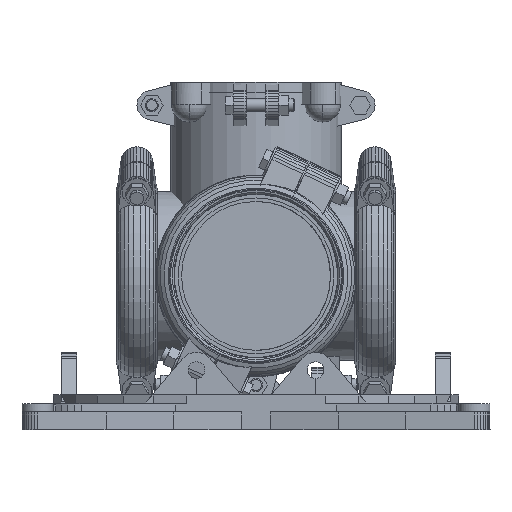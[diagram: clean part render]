
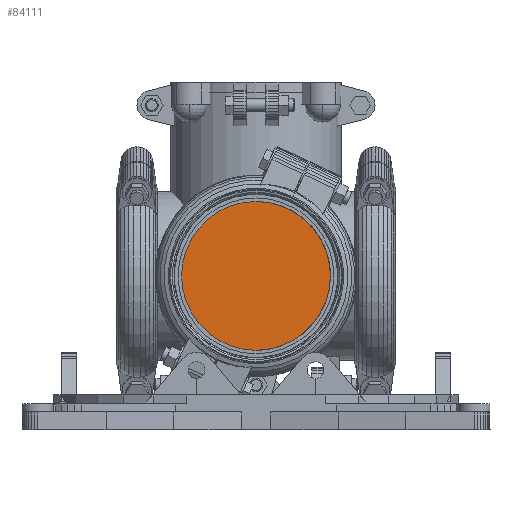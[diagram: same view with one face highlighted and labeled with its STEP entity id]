
A CAD part, front view. The second image highlights one B-rep face of the part: STEP entity #84111.
In plain terms, the highlighted planar face has unit normal (0, -1, 0).
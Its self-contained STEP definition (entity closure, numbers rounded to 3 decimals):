
#84057=AXIS2_PLACEMENT_3D('Circle Axis2P3D',#84055,#84056,$) ;
#84075=AXIS2_PLACEMENT_3D('Circle Axis2P3D',#84073,#84074,$) ;
#84105=AXIS2_PLACEMENT_3D('Plane Axis2P3D',#84102,#84103,#84104) ;
#84026=CARTESIAN_POINT('Vertex',(0.,-120.1,80.)) ;
#84052=CARTESIAN_POINT('Vertex',(0.,-120.1,230.)) ;
#84055=CARTESIAN_POINT('Axis2P3D Location',(0.,-120.1,155.)) ;
#84073=CARTESIAN_POINT('Axis2P3D Location',(0.,-120.1,155.)) ;
#84102=CARTESIAN_POINT('Axis2P3D Location',(0.,-120.1,155.)) ;
#84056=DIRECTION('Axis2P3D Direction',(-0.,1.,0.)) ;
#84074=DIRECTION('Axis2P3D Direction',(-0.,1.,0.)) ;
#84103=DIRECTION('Axis2P3D Direction',(0.,-1.,0.)) ;
#84104=DIRECTION('Axis2P3D XDirection',(0.,0.,-1.)) ;
#84108=ORIENTED_EDGE('',*,*,#84059,.T.) ;
#84109=ORIENTED_EDGE('',*,*,#84077,.T.) ;
#84111=ADVANCED_FACE('15',(#84110),#84106,.T.) ;
#84058=CIRCLE('generated circle',#84057,75.) ;
#84076=CIRCLE('generated circle',#84075,75.) ;
#84059=EDGE_CURVE('',#84027,#84053,#84058,.F.) ;
#84077=EDGE_CURVE('',#84053,#84027,#84076,.F.) ;
#84107=EDGE_LOOP('',(#84108,#84109)) ;
#84110=FACE_OUTER_BOUND('',#84107,.T.) ;
#84106=PLANE('',#84105) ;
#84027=VERTEX_POINT('',#84026) ;
#84053=VERTEX_POINT('',#84052) ;
